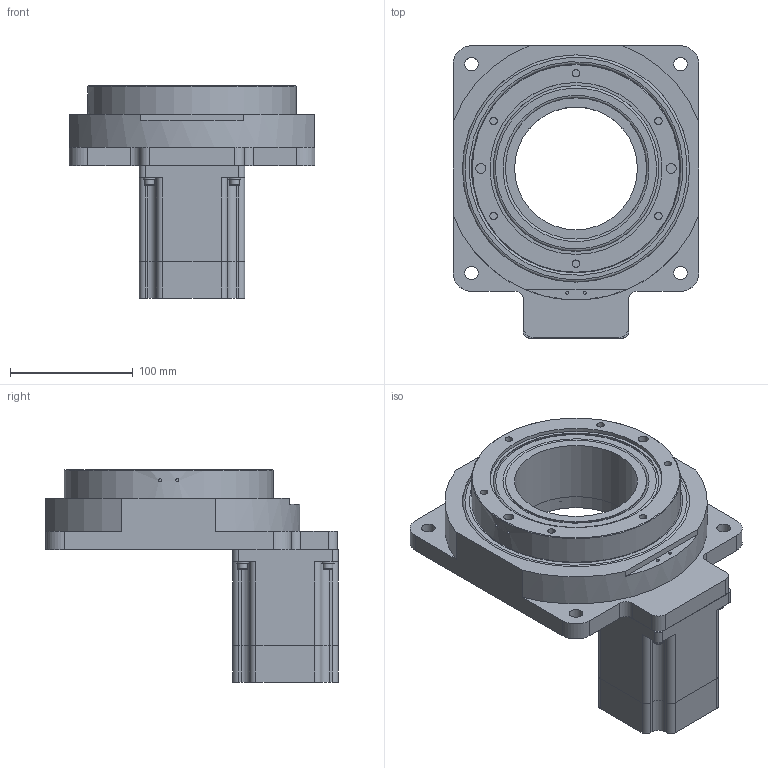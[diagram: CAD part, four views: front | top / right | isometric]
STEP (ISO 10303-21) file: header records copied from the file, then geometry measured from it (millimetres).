
FILE_DESCRIPTION (( 'STEP AP203' ), '1' );
FILE_NAME ('HRII200.STEP', '2015-01-05T02:45:57', ( 'wang' ), ( '' ), 'SwSTEP 2.0', 'SolidWorks 2013', '' );
FILE_SCHEMA (( 'CONFIG_CONTROL_DESIGN' ));
Length unit declared in the file: millimetre
Products named in the file (1): HRII200
Bounding box: 200 x 238 x 173 mm (x, y, z)
Volume: 2112549.8 mm3; surface area: 371097.8 mm2
Topology: 7 solids, 7 shells, 263 faces, 570 edges, 381 vertices
Faces by surface type: cylinder 126, plane 117, cone 10, torus 10
Full cylindrical faces by diameter (mm): 2.5 x4, 5 x12, 6 x22, 8 x7, 9 x6, 10 x4, 11 x4, 15 x1, 73.02 x1, 73.03 x1, 100 x2, 115 x2, 119 x1, 125 x2, 131 x1, 135 x2, 140 x1, 147 x1, 148 x1, 166 x2, 168 x2, 170 x2, 172 x1, 181.14 x1, 183 x2, 185 x2
Entity records: 6745 total; most frequent: DIRECTION 1238, CARTESIAN_POINT 1132, ORIENTED_EDGE 876, AXIS2_PLACEMENT_3D 538, EDGE_LOOP 474, EDGE_CURVE 438, FACE_OUTER_BOUND 360, VERTEX_POINT 356
